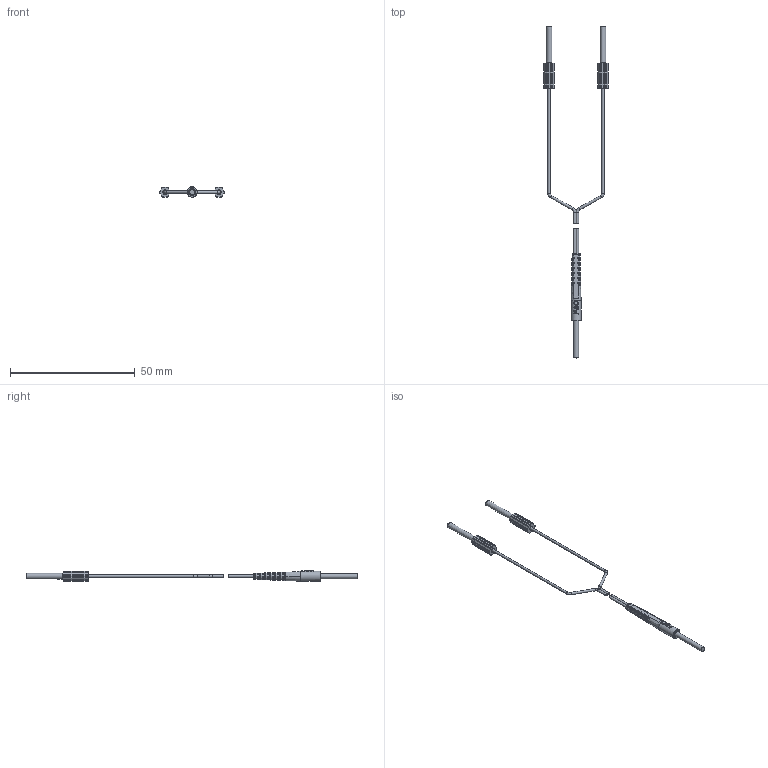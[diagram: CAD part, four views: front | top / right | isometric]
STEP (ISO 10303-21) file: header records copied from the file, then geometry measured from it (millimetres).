
FILE_DESCRIPTION(/* description */ (''),/* implementation_level */ '2;1');
FILE_NAME(/* name */ 'FFRS-210',/* time_stamp */ '2020-06-24T16:35:58+08:00',/* author */ (''),/* organization */ (''),/* preprocessor_version */ 'ST-DEVELOPER v9',/* originating_system */ 'UGS - NX 4.0',/* authorisation */ '');
FILE_SCHEMA (('CONFIG_CONTROL_DESIGN'));
Length unit declared in the file: millimetre
Products named in the file (1): FFRS-210
Bounding box: 25.94 x 133 x 4.16 mm (x, y, z)
Volume: 720 mm3; surface area: 2391.9 mm2
Topology: 10 solids, 10 shells, 531 faces, 1571 edges, 1059 vertices
Faces by surface type: plane 302, cylinder 151, extrusion 25, bspline 23, cone 22, torus 8
Full cylindrical faces by diameter (mm): 1 x8, 1.1 x4, 2 x1, 2.5 x18, 2.9 x1, 3 x2, 4 x1
Entity records: 28955 total; most frequent: CARTESIAN_POINT 15775, ORIENTED_EDGE 2920, DIRECTION 2338, EDGE_CURVE 1460, VERTEX_POINT 1003, VECTOR 850, LINE 825, AXIS2_PLACEMENT_3D 744
